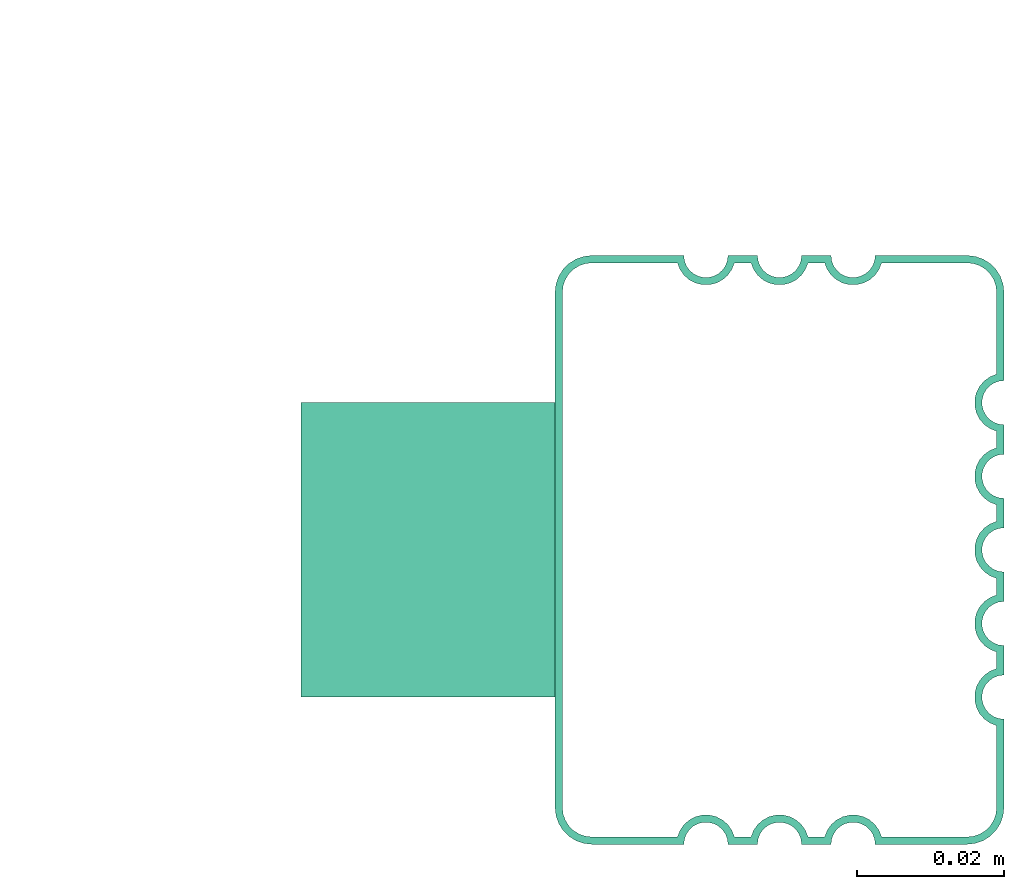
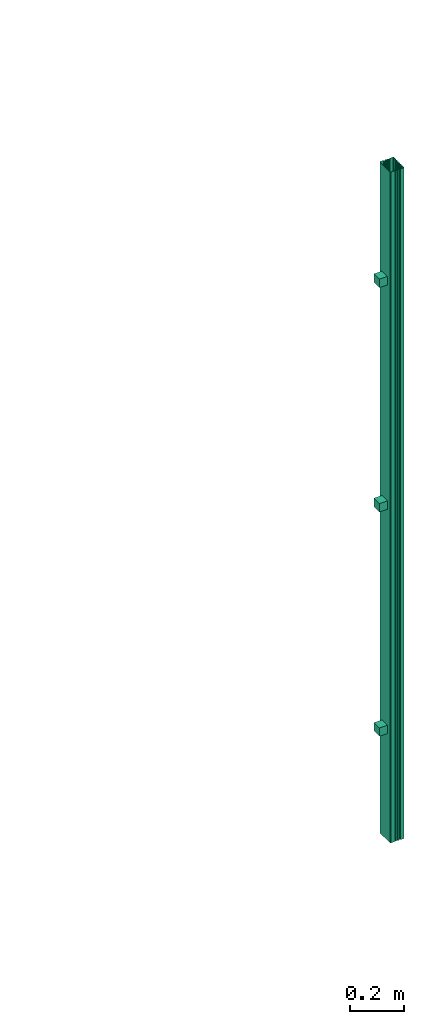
# One storey, part 5 of 5: 1 flow terminal.
"""IFC2X3 building model written with IfcOpenShell, lengths in metres."""

import ifcopenshell
import ifcopenshell.guid

model = None  # the IFC model being written
_history = None  # IfcOwnerHistory: only IFC2X3 demands one
_inside = {}  # id of a spatial element -> (the spatial element, [elements in it])
_under = {}  # id of a project, library or spatial element -> (it, [spatial elements below it])
_declared = {}  # id of a project -> (the project, [libraries it declares])
_typed = {}  # id of a type object -> (the type object, [elements of that type])
_made_of = {}  # id of a material, layer set ... -> (it, [elements and type objects made of it])


def new_model(schema):
    """Start an empty IFC model of exactly this schema.

    Asked for "IFC4X3", IfcOpenShell would pick the latest addendum, in which some entities
    have other attributes; the version numbers below select the first issue.
    IFC2X3 requires an IfcOwnerHistory on every rooted entity: one is made here for all.
    """
    global model, _history
    if schema == "IFC4X3":
        model = ifcopenshell.file(schema_version=(4, 3, 0, 0))
    else:
        model = ifcopenshell.file(schema=schema)
    _inside.clear()
    _under.clear()
    _declared.clear()
    _typed.clear()
    _made_of.clear()
    _history = None
    if model.schema == "IFC2X3":
        org = make("IfcOrganization", Name="unknown")
        user = make(
            "IfcPersonAndOrganization",
            ThePerson=make("IfcPerson", FamilyName="unknown"),
            TheOrganization=org,
        )
        app = make(
            "IfcApplication",
            ApplicationDeveloper=org,
            Version="unknown",
            ApplicationFullName="unknown",
            ApplicationIdentifier="unknown",
        )
        _history = make(
            "IfcOwnerHistory",
            OwningUser=user,
            OwningApplication=app,
            ChangeAction="ADDED",
            CreationDate=0,
        )
    return model


def make(cls, **values):
    """One entity of the class cls with the attributes given. An attribute that is None is left unset."""
    return model.create_entity(
        cls, **{name: value for name, value in values.items() if value is not None}
    )


def entity(cls, *values):
    """Any entity or typed value of the class cls, its attributes in the order of the schema. None: left unset."""
    e = model.create_entity(cls)
    for i, value in enumerate(values):
        if value is not None:
            e[i] = value
    return e


def rooted(cls, **values):
    """An entity with a GlobalId (a new one), such as an element, a storey or a relation."""
    return make(cls, GlobalId=ifcopenshell.guid.new(), OwnerHistory=_history, **values)


def si_unit(unit_type, name, prefix=None):
    """IfcSIUnit, for example si_unit("LENGTHUNIT", "METRE", prefix="MILLI")."""
    return make("IfcSIUnit", UnitType=unit_type, Prefix=prefix, Name=name)


def converted_unit(unit_type, name, factor, base, dimensions=None, offset=None):
    """IfcConversionBasedUnit, such as the inch: factor (a typed value) times the base unit."""
    return make(
        "IfcConversionBasedUnit"
        if offset is None
        else "IfcConversionBasedUnitWithOffset",
        ConversionOffset=offset,
        Dimensions=None
        if dimensions is None
        else entity("IfcDimensionalExponents", *dimensions),
        UnitType=unit_type,
        Name=name,
        ConversionFactor=make(
            "IfcMeasureWithUnit", ValueComponent=factor, UnitComponent=base
        ),
    )


def derived_unit(unit_type, elements):
    """IfcDerivedUnit: a product of units, each with its exponent."""
    return make(
        "IfcDerivedUnit",
        Elements=[
            make("IfcDerivedUnitElement", Unit=unit, Exponent=power)
            for unit, power in elements
        ],
        UnitType=unit_type,
    )


def assignment(units):
    """IfcUnitAssignment: the units of a project."""
    return None if units is None else make("IfcUnitAssignment", Units=units)


def point(xyz):
    """IfcCartesianPoint."""
    return None if xyz is None else make("IfcCartesianPoint", Coordinates=xyz)


def direction(xyz):
    """IfcDirection."""
    return None if xyz is None else make("IfcDirection", DirectionRatios=xyz)


def frame(location, z_axis=None, x_axis=None):
    """IfcAxis2Placement3D, a coordinate frame: its origin and axes. An axis left out is left unset."""
    return make(
        "IfcAxis2Placement3D",
        Location=point(location),
        Axis=direction(z_axis),
        RefDirection=direction(x_axis),
    )


def frame_2d(location, x_axis=None):
    """IfcAxis2Placement2D, a coordinate frame in the plane: its origin and x axis."""
    return make(
        "IfcAxis2Placement2D", Location=point(location), RefDirection=direction(x_axis)
    )


def origin():
    """The frame at (0, 0, 0) with its axes left unset."""
    return frame((0.0, 0.0, 0.0))


def place(relative_to, where):
    """IfcLocalPlacement: puts the frame where relative to a parent placement (None: the world)."""
    return make(
        "IfcLocalPlacement", PlacementRelTo=relative_to, RelativePlacement=where
    )


def context(
    kind, dimensions, precision=None, world=None, true_north=None, identifier=None
):
    """IfcGeometricRepresentationContext, for example the 3D "Model" context."""
    return make(
        "IfcGeometricRepresentationContext",
        ContextIdentifier=identifier,
        ContextType=kind,
        CoordinateSpaceDimension=dimensions,
        Precision=precision,
        WorldCoordinateSystem=world,
        TrueNorth=true_north,
    )


def subcontext(parent, identifier, kind, view, scale=None):
    """IfcGeometricRepresentationSubContext, for example "Body" below "Model"."""
    return make(
        "IfcGeometricRepresentationSubContext",
        ContextIdentifier=identifier,
        ContextType=kind,
        ParentContext=parent,
        TargetScale=scale,
        TargetView=view,
    )


def project(units=None, contexts=None):
    """IfcProject with its units and contexts."""
    return rooted(
        "IfcProject",
        Name="project",
        RepresentationContexts=contexts,
        UnitsInContext=assignment(units),
    )


def spatial(cls, under=None, at=None, **own):
    """A site, building, storey or space (cls), placed at a placement, below another one or the project."""
    s = rooted(cls, ObjectPlacement=at, **own)
    if under is not None:
        _under.setdefault(under.id(), (under, []))[1].append(s)
    return s


def polyline(points):
    """IfcPolyline through the points."""
    return make("IfcPolyline", Points=[point(p) for p in points])


def circle_curve(where, radius):
    """IfcCircle in the frame where."""
    return make("IfcCircle", Position=where, Radius=radius)


def parameter(value):
    """IfcParameterValue: where a trimmed curve begins or ends, as a parameter of its basis curve."""
    return model.create_entity("IfcParameterValue", value)


def trimmed(basis, trim1, trim2, sense, master):
    """IfcTrimmedCurve: the piece of a basis curve between two trims."""
    return make(
        "IfcTrimmedCurve",
        BasisCurve=basis,
        Trim1=trim1,
        Trim2=trim2,
        SenseAgreement=sense,
        MasterRepresentation=master,
    )


def segment(curve, same_sense, transition):
    """IfcCompositeCurveSegment."""
    return make(
        "IfcCompositeCurveSegment",
        Transition=transition,
        SameSense=same_sense,
        ParentCurve=curve,
    )


def composite_curve(segments, self_intersect=None):
    """IfcCompositeCurve: segments joined end to end."""
    return make("IfcCompositeCurve", Segments=segments, SelfIntersect=self_intersect)


def profile(cls, at=None, kind="AREA", **sizes):
    """A parametric profile (cls). Its sizes go by their IFC names, for example OverallWidth=200.0."""
    return make(cls, ProfileType=kind, Position=at, **sizes)


def rectangle(**sizes):
    """IfcRectangleProfileDef."""
    return profile("IfcRectangleProfileDef", **sizes)


def outline(outer, holes=None, kind="AREA"):
    """IfcArbitraryClosedProfileDef: a profile drawn as a closed curve; with holes, ...WithVoids."""
    if holes is None:
        return make("IfcArbitraryClosedProfileDef", ProfileType=kind, OuterCurve=outer)
    return make(
        "IfcArbitraryProfileDefWithVoids",
        ProfileType=kind,
        OuterCurve=outer,
        InnerCurves=holes,
    )


def extrude(swept, where, along, depth):
    """IfcExtrudedAreaSolid: the profile swept, set in the frame where, extruded along a direction by depth."""
    return make(
        "IfcExtrudedAreaSolid",
        SweptArea=swept,
        Position=where,
        ExtrudedDirection=direction(along),
        Depth=depth,
    )


def shape(context_of_items, identifier, shape_type, items):
    """IfcShapeRepresentation: the items that make up one representation, for example the "Body"."""
    return make(
        "IfcShapeRepresentation",
        ContextOfItems=context_of_items,
        RepresentationIdentifier=identifier,
        RepresentationType=shape_type,
        Items=items,
    )


def source(mapping_origin, context_of_items, identifier, shape_type, items):
    """IfcRepresentationMap: a shape defined once, which mapped items show again and again."""
    return make(
        "IfcRepresentationMap",
        MappingOrigin=mapping_origin,
        MappedRepresentation=shape(context_of_items, identifier, shape_type, items),
    )


def transform(
    local_origin,
    x_axis=None,
    y_axis=None,
    z_axis=None,
    scale=None,
    scale2=None,
    scale3=None,
    uniform=True,
):
    """IfcCartesianTransformationOperator3D, or its non-uniform kind. x_axis, y_axis, z_axis: its Axis1, 2, 3."""
    if uniform:
        return make(
            "IfcCartesianTransformationOperator3D",
            Axis1=direction(x_axis),
            Axis2=direction(y_axis),
            LocalOrigin=point(local_origin),
            Scale=scale,
            Axis3=direction(z_axis),
        )
    return make(
        "IfcCartesianTransformationOperator3DnonUniform",
        Axis1=direction(x_axis),
        Axis2=direction(y_axis),
        LocalOrigin=point(local_origin),
        Scale=scale,
        Axis3=direction(z_axis),
        Scale2=scale2,
        Scale3=scale3,
    )


def mapped(mapping_source, mapping_target):
    """IfcMappedItem: shows the shape of a source again, moved by a transform."""
    return make(
        "IfcMappedItem", MappingSource=mapping_source, MappingTarget=mapping_target
    )


def material(Name=None, Category=None):
    """IfcMaterial."""
    return make("IfcMaterial", Name=Name, Category=Category)


def made_of(thing, what):
    """Note that an element or type object is made of a material, layer set ...; save() writes the relation."""
    if what is not None:
        _made_of.setdefault(what.id(), (what, []))[1].append(thing)
    return thing


def type_object(cls, material=None, **own):
    """A type object (cls), such as IfcWallType, which elements share."""
    return made_of(rooted(cls, **own), material)


def type_shapes(of_type, sources):
    """Give a type object the sources (RepresentationMaps) that its elements show as mapped items."""
    of_type.RepresentationMaps = sources


def element(
    cls,
    number,
    at=None,
    inside=None,
    cuts=None,
    type_object=None,
    material=None,
    context=None,
    identifier="Body",
    shape_type=None,
    held_by="IfcProductDefinitionShape",
    body=None,
    shapes=None,
    **own,
):
    """One element of the class cls, such as IfcWall. Its Tag is "e" and its number.

    at: its placement. inside: the storey or other place that contains it. cuts: it is an
    opening in that element (IfcRelVoidsElement). A single representation is given by context,
    identifier, shape_type and body (its items); several are given by shapes. held_by: the class
    of the entity that holds the representations. save() writes the other relations.
    """
    e = rooted(cls, Tag="e%d" % number, ObjectPlacement=at, **own)
    if body is not None:
        shapes = [shape(context, identifier, shape_type, body)]
    if shapes is not None:
        e.Representation = make(held_by, Representations=shapes)
    if inside is not None:
        _inside.setdefault(inside.id(), (inside, []))[1].append(e)
    if cuts is not None:
        rooted(
            "IfcRelVoidsElement", RelatingBuildingElement=cuts, RelatedOpeningElement=e
        )
    if type_object is not None:
        _typed.setdefault(type_object.id(), (type_object, []))[1].append(e)
    return made_of(e, material)


def aggregate(whole, parts):
    """IfcRelAggregates: a whole, such as a stair, and the parts it consists of."""
    return rooted("IfcRelAggregates", RelatingObject=whole, RelatedObjects=parts)


def save(model, path):
    """Write the relations noted so far, then the file.

    IfcRelAggregates (storeys below a building ...), IfcRelContainedInSpatialStructure (elements
    in a storey), IfcRelDefinesByType, IfcRelAssociatesMaterial and IfcRelDeclares: one each for
    every whole, place, type object, material and project.
    """
    for whole, parts in _under.values():
        aggregate(whole, parts)
    for where, things in _inside.values():
        rooted(
            "IfcRelContainedInSpatialStructure",
            RelatedElements=things,
            RelatingStructure=where,
        )
    for kind, things in _typed.values():
        rooted("IfcRelDefinesByType", RelatedObjects=things, RelatingType=kind)
    for what, things in _made_of.values():
        rooted("IfcRelAssociatesMaterial", RelatedObjects=things, RelatingMaterial=what)
    for by, libraries in _declared.values():
        rooted("IfcRelDeclares", RelatingContext=by, RelatedDefinitions=libraries)
    model.write(path)


model = new_model("IFC2X3")

# Units and contexts
model_context = context("Model", 3, precision=1e-05, world=origin(), true_north=direction((6.123031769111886e-17, 1.0)))
body_context = subcontext(model_context, "Body", "Model", "MODEL_VIEW")
ifc_project = project(units=[si_unit("LENGTHUNIT", "METRE"), si_unit("AREAUNIT", "SQUARE_METRE"), si_unit("VOLUMEUNIT", "CUBIC_METRE"), converted_unit("PLANEANGLEUNIT", "DEGREE", entity("IfcRatioMeasure", 0.017453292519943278), si_unit("PLANEANGLEUNIT", "RADIAN"), dimensions=[0, 0, 0, 0, 0, 0, 0]), si_unit("MASSUNIT", "GRAM", prefix="KILO"), derived_unit("MASSDENSITYUNIT", [(si_unit("MASSUNIT", "GRAM", prefix="KILO"), 1), (si_unit("LENGTHUNIT", "METRE"), -3)]), derived_unit("IONCONCENTRATIONUNIT", [(si_unit("MASSUNIT", "GRAM", prefix="KILO"), 1), (si_unit("LENGTHUNIT", "METRE"), -3)]), derived_unit("MOMENTOFINERTIAUNIT", [(si_unit("LENGTHUNIT", "METRE"), 4)]), si_unit("TIMEUNIT", "SECOND"), si_unit("FREQUENCYUNIT", "HERTZ"), si_unit("THERMODYNAMICTEMPERATUREUNIT", "DEGREE_CELSIUS"), derived_unit("THERMALTRANSMITTANCEUNIT", [(si_unit("MASSUNIT", "GRAM", prefix="KILO"), 1), (si_unit("THERMODYNAMICTEMPERATUREUNIT", "KELVIN"), -1), (si_unit("TIMEUNIT", "SECOND"), -3)]), derived_unit("THERMALCONDUCTANCEUNIT", [(si_unit("MASSUNIT", "GRAM", prefix="KILO"), 1), (si_unit("THERMODYNAMICTEMPERATUREUNIT", "KELVIN"), -1), (si_unit("TIMEUNIT", "SECOND"), -3), (si_unit("LENGTHUNIT", "METRE"), 1)]), derived_unit("VOLUMETRICFLOWRATEUNIT", [(si_unit("LENGTHUNIT", "METRE"), 3), (si_unit("TIMEUNIT", "SECOND"), -1)]), derived_unit("MASSFLOWRATEUNIT", [(si_unit("MASSUNIT", "GRAM", prefix="KILO"), 1), (si_unit("TIMEUNIT", "SECOND"), -1)]), derived_unit("ROTATIONALFREQUENCYUNIT", [(si_unit("TIMEUNIT", "SECOND"), -1)]), si_unit("ELECTRICCURRENTUNIT", "AMPERE"), si_unit("ELECTRICVOLTAGEUNIT", "VOLT"), si_unit("POWERUNIT", "WATT"), si_unit("FORCEUNIT", "NEWTON", prefix="KILO"), si_unit("ILLUMINANCEUNIT", "LUX"), si_unit("LUMINOUSFLUXUNIT", "LUMEN"), si_unit("LUMINOUSINTENSITYUNIT", "CANDELA"), derived_unit("USERDEFINED", [(si_unit("MASSUNIT", "GRAM", prefix="KILO"), -1), (si_unit("LENGTHUNIT", "METRE"), -2), (si_unit("TIMEUNIT", "SECOND"), 3), (si_unit("LUMINOUSFLUXUNIT", "LUMEN"), 1)]), derived_unit("USERDEFINED", [(si_unit("MASSUNIT", "GRAM", prefix="KILO"), 1), (si_unit("TIMEUNIT", "SECOND"), -3), (si_unit("LENGTHUNIT", "METRE"), 3), (si_unit("ELECTRICCURRENTUNIT", "AMPERE"), -2)]), derived_unit("SOUNDPOWERUNIT", [(si_unit("MASSUNIT", "GRAM", prefix="KILO"), 1), (si_unit("TIMEUNIT", "SECOND"), -3), (si_unit("LENGTHUNIT", "METRE"), 2)]), derived_unit("SOUNDPRESSUREUNIT", [(si_unit("MASSUNIT", "GRAM", prefix="KILO"), 1), (si_unit("LENGTHUNIT", "METRE"), -1), (si_unit("TIMEUNIT", "SECOND"), -2)]), derived_unit("LINEARVELOCITYUNIT", [(si_unit("LENGTHUNIT", "METRE"), 1), (si_unit("TIMEUNIT", "SECOND"), -1)]), si_unit("PRESSUREUNIT", "PASCAL"), derived_unit("USERDEFINED", [(si_unit("MASSUNIT", "GRAM", prefix="KILO"), 1), (si_unit("LENGTHUNIT", "METRE"), -2), (si_unit("TIMEUNIT", "SECOND"), -2)]), derived_unit("LINEARFORCEUNIT", [(si_unit("MASSUNIT", "GRAM", prefix="KILO"), 1), (si_unit("TIMEUNIT", "SECOND"), -2)]), derived_unit("PLANARFORCEUNIT", [(si_unit("MASSUNIT", "GRAM", prefix="KILO"), 1), (si_unit("LENGTHUNIT", "METRE"), -1), (si_unit("TIMEUNIT", "SECOND"), -2)]), derived_unit("SPECIFICHEATCAPACITYUNIT", [(si_unit("THERMODYNAMICTEMPERATUREUNIT", "KELVIN"), -1), (si_unit("LENGTHUNIT", "METRE"), 2), (si_unit("TIMEUNIT", "SECOND"), -2)]), derived_unit("HEATINGVALUEUNIT", [(si_unit("LENGTHUNIT", "METRE"), 2), (si_unit("TIMEUNIT", "SECOND"), -2)]), derived_unit("VAPORPERMEABILITYUNIT", [(si_unit("LENGTHUNIT", "METRE"), -1), (si_unit("TIMEUNIT", "SECOND"), 1)]), derived_unit("DYNAMICVISCOSITYUNIT", [(si_unit("MASSUNIT", "GRAM", prefix="KILO"), 1), (si_unit("TIMEUNIT", "SECOND"), -1), (si_unit("LENGTHUNIT", "METRE"), -1)]), derived_unit("THERMALEXPANSIONCOEFFICIENTUNIT", [(si_unit("THERMODYNAMICTEMPERATUREUNIT", "KELVIN"), -1)]), derived_unit("MODULUSOFELASTICITYUNIT", [(si_unit("MASSUNIT", "GRAM", prefix="KILO"), 1), (si_unit("LENGTHUNIT", "METRE"), -1), (si_unit("TIMEUNIT", "SECOND"), -2)]), derived_unit("ISOTHERMALMOISTURECAPACITYUNIT", [(si_unit("LENGTHUNIT", "METRE"), 3), (si_unit("MASSUNIT", "GRAM", prefix="KILO"), -1)]), derived_unit("MOISTUREDIFFUSIVITYUNIT", [(si_unit("TIMEUNIT", "SECOND"), -1), (si_unit("LENGTHUNIT", "METRE"), 2)])], contexts=[model_context])

# Site, building, storey
site_placement = place(None, frame((1.2553507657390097, -0.6266432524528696, -1.0397761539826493), z_axis=(0.0, 0.0, 1.0), x_axis=(-1.0, 0.0, 0.0)))
site = spatial("IfcSite", under=ifc_project, at=site_placement, Name="Default", CompositionType="ELEMENT")
building_placement = place(site_placement, origin())
building = spatial("IfcBuilding", under=site, at=building_placement, Name="MAISON D'HABITATION", CompositionType="ELEMENT")
storey_placement = place(building_placement, frame((0.0, 0.0, 0.9097761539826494)))
storey = spatial("IfcBuildingStorey", under=building, at=storey_placement, Name="Niveau Dalle ↑", CompositionType="ELEMENT", Elevation=0.9097761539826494)

# Flow terminal
ifc_material = material(Name="<Unnamed>")
distribution_element_type = type_object("IfcDistributionElementType", Name="Descente Gouttière rectangle:Descente Gouttière rectangle", material=ifc_material)
shared_shape = source(origin(), body_context, "Body", "SweptSolid", [
    extrude(rectangle(XDim=0.04, YDim=0.0349999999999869, at=frame_2d((0.0, 1.3530843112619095e-16), x_axis=(1.0, 0.0))), frame((0.006697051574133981, 0.8126588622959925, 1.4918658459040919), z_axis=(0.0, 0.0, 1.0), x_axis=(-1.0, 0.0, 0.0)), (0.0, 0.0, 1.0), 0.037768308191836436),
    extrude(rectangle(XDim=0.04, YDim=0.0349999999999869, at=frame_2d((0.0, 1.3530843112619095e-16), x_axis=(1.0, 0.0))), frame((0.006697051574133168, 0.8126588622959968, 2.5026158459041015), z_axis=(0.0, 0.0, 1.0), x_axis=(-1.0, 0.0, 0.0)), (0.0, 0.0, 1.0), 0.037768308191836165),
    extrude(rectangle(XDim=0.04, YDim=0.0349999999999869, at=frame_2d((0.0, 1.3530843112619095e-16), x_axis=(1.0, 0.0))), frame((0.006697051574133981, 0.8126588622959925, 0.48111584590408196), z_axis=(0.0, 0.0, 1.0), x_axis=(-1.0, 0.0, 0.0)), (0.0, 0.0, 1.0), 0.037768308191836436),
    extrude(outline(composite_curve([segment(polyline([(0.02299999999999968, -0.02033333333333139), (0.03499999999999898, -0.020333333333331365)]), True, "CONTINUOUS"), segment(trimmed(circle_curve(frame_2d((0.03499999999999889, -0.015333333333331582), x_axis=(-1.0, 0.0)), 0.00499999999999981), [parameter(90.00000000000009)], [parameter(180.00000000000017)], True, "PARAMETER"), True, "CONTINUOUS"), segment(polyline([(0.03999999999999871, -0.015333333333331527), (0.03999999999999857, -0.002833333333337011)]), True, "CONTINUOUS"), segment(trimmed(circle_curve(frame_2d((0.03999999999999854, 0.00016666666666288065), x_axis=(-1.0, 0.0)), 0.0029999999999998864), [parameter(270.00000000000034)], [parameter(90.0000000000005)], True, "PARAMETER"), False, "CONTINUOUS"), segment(polyline([(0.039999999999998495, 0.003166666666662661), (0.03999999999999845, 0.007166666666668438)]), True, "CONTINUOUS"), segment(trimmed(circle_curve(frame_2d((0.03999999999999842, 0.01016666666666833), x_axis=(-1.0, 0.0)), 0.0029999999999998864), [parameter(270.00000000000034)], [parameter(90.0000000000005)], True, "PARAMETER"), False, "CONTINUOUS"), segment(polyline([(0.03999999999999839, 0.01316666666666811), (0.03999999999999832, 0.01716666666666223)]), True, "CONTINUOUS"), segment(trimmed(circle_curve(frame_2d((0.03999999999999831, 0.02016666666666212), x_axis=(-1.0, 0.0)), 0.0029999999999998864), [parameter(269.9999999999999)], [parameter(90.00000000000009)], True, "PARAMETER"), False, "CONTINUOUS"), segment(polyline([(0.039999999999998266, 0.0231666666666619), (0.03999999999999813, 0.035666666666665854)]), True, "CONTINUOUS"), segment(trimmed(circle_curve(frame_2d((0.03499999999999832, 0.0356666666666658), x_axis=(-1.0, 0.0)), 0.00499999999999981), [parameter(180.00000000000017)], [parameter(270.0)], True, "PARAMETER"), True, "CONTINUOUS"), segment(polyline([(0.034999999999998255, 0.04066666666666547), (-0.03499999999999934, 0.04066666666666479)]), True, "CONTINUOUS"), segment(trimmed(circle_curve(frame_2d((-0.034999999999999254, 0.03566666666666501), x_axis=(-1.0, 0.0)), 0.00499999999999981), [parameter(269.9999999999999)], [parameter(0.0)], True, "PARAMETER"), True, "CONTINUOUS"), segment(polyline([(-0.03999999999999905, 0.03566666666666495), (-0.0399999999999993, 0.023166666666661)]), True, "CONTINUOUS"), segment(trimmed(circle_curve(frame_2d((-0.0399999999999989, 0.02016666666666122), x_axis=(-1.0, 0.0)), 0.0029999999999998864), [parameter(90.00000000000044)], [parameter(270.00000000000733)], True, "PARAMETER"), False, "CONTINUOUS"), segment(polyline([(-0.03999999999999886, 0.017166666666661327), (-0.03999999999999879, 0.013166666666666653)]), True, "CONTINUOUS"), segment(trimmed(circle_curve(frame_2d((-0.039999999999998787, 0.010166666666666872), x_axis=(-1.0, 0.0)), 0.0029999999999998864), [parameter(90.00000000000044)], [parameter(269.9999999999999)], True, "PARAMETER"), False, "CONTINUOUS"), segment(polyline([(-0.03999999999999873, 0.007166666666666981), (-0.03999999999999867, 0.003166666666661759)]), True, "CONTINUOUS"), segment(trimmed(circle_curve(frame_2d((-0.03999999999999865, 0.00016666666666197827), x_axis=(-1.0, 0.0)), 0.0029999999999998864), [parameter(89.99999999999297)], [parameter(269.9999999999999)], True, "PARAMETER"), False, "CONTINUOUS"), segment(polyline([(-0.039999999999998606, -0.002833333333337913), (-0.03999999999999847, -0.015333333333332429)]), True, "CONTINUOUS"), segment(trimmed(circle_curve(frame_2d((-0.03499999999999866, -0.015333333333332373), x_axis=(-1.0, 0.0)), 0.00499999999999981), [parameter(0.0)], [parameter(90.00000000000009)], True, "PARAMETER"), True, "CONTINUOUS"), segment(polyline([(-0.0349999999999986, -0.020333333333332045), (-0.022999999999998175, -0.02033333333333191)]), True, "CONTINUOUS"), segment(trimmed(circle_curve(frame_2d((-0.01999999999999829, -0.020333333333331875), x_axis=(-1.0, 0.0)), 0.0029999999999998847), [parameter(179.99999999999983)], [parameter(0.0)], True, "PARAMETER"), False, "CONTINUOUS"), segment(polyline([(-0.016999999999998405, -0.02033333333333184), (-0.012999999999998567, -0.020333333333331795)]), True, "CONTINUOUS"), segment(trimmed(circle_curve(frame_2d((-0.009999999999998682, -0.020333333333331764), x_axis=(-1.0, 0.0)), 0.0029999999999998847), [parameter(179.99999999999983)], [parameter(0.0)], True, "PARAMETER"), False, "CONTINUOUS"), segment(polyline([(-0.006999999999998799, -0.02033333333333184), (-0.0030000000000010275, -0.020333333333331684)]), True, "CONTINUOUS"), segment(trimmed(circle_curve(frame_2d((0.0, -0.02033333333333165), x_axis=(-1.0, 0.0)), 0.0029999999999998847), [parameter(179.99999999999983)], [parameter(0.0)], True, "PARAMETER"), False, "CONTINUOUS"), segment(polyline([(0.002999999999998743, -0.020333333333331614), (0.007000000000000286, -0.02033333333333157)]), True, "CONTINUOUS"), segment(trimmed(circle_curve(frame_2d((0.010000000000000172, -0.020333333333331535), x_axis=(-1.0, 0.0)), 0.0029999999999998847), [parameter(179.99999999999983)], [parameter(0.0)], True, "PARAMETER"), False, "CONTINUOUS"), segment(polyline([(0.013000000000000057, -0.020333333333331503), (0.016999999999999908, -0.020333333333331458)]), True, "CONTINUOUS"), segment(trimmed(circle_curve(frame_2d((0.019999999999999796, -0.020333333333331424), x_axis=(-1.0, 0.0)), 0.0029999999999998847), [parameter(179.99999999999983)], [parameter(0.0)], True, "PARAMETER"), False, "CONTINUOUS")], self_intersect=False), holes=[composite_curve([segment(trimmed(circle_curve(frame_2d((0.019999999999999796, -0.020333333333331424), x_axis=(-1.0, 0.0)), 0.0039999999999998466), [parameter(194.47751218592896)], [parameter(345.52248781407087)], True, "PARAMETER"), True, "CONTINUOUS"), segment(polyline([(0.0161270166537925, -0.019333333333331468), (0.013872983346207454, -0.01933333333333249)]), True, "CONTINUOUS"), segment(trimmed(circle_curve(frame_2d((0.010000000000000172, -0.020333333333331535), x_axis=(-1.0, 0.0)), 0.0039999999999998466), [parameter(194.47751218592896)], [parameter(345.52248781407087)], True, "PARAMETER"), True, "CONTINUOUS"), segment(polyline([(0.006127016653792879, -0.01933333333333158), (0.0038729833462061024, -0.019333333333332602)]), True, "CONTINUOUS"), segment(trimmed(circle_curve(frame_2d((0.0, -0.02033333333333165), x_axis=(-1.0, 0.0)), 0.0039999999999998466), [parameter(194.47751218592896)], [parameter(345.52248781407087)], True, "PARAMETER"), True, "CONTINUOUS"), segment(polyline([(-0.003872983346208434, -0.019333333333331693), (-0.006127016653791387, -0.019333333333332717)]), True, "CONTINUOUS"), segment(trimmed(circle_curve(frame_2d((-0.009999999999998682, -0.020333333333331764), x_axis=(-1.0, 0.0)), 0.0039999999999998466), [parameter(194.47751218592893)], [parameter(345.5224878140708)], True, "PARAMETER"), True, "CONTINUOUS"), segment(polyline([(-0.013872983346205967, -0.019333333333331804), (-0.01612701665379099, -0.019333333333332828)]), True, "CONTINUOUS"), segment(trimmed(circle_curve(frame_2d((-0.01999999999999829, -0.020333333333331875), x_axis=(-1.0, 0.0)), 0.0039999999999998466), [parameter(194.47751218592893)], [parameter(345.5224878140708)], True, "PARAMETER"), True, "CONTINUOUS"), segment(polyline([(-0.023872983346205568, -0.01933333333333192), (-0.034999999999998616, -0.019333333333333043)]), True, "CONTINUOUS"), segment(trimmed(circle_curve(frame_2d((-0.03499999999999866, -0.015333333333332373), x_axis=(-1.0, 0.0)), 0.003999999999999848), [parameter(0.0)], [parameter(90.00000000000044)], True, "PARAMETER"), False, "CONTINUOUS"), segment(polyline([(-0.03899999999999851, -0.015333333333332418), (-0.03899999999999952, -0.0037063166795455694)]), True, "CONTINUOUS"), segment(trimmed(circle_curve(frame_2d((-0.03999999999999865, 0.00016666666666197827), x_axis=(-1.0, 0.0)), 0.003999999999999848), [parameter(104.47751218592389)], [parameter(255.52248781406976)], True, "PARAMETER"), True, "CONTINUOUS"), segment(polyline([(-0.038999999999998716, 0.004039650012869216), (-0.03899999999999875, 0.0062936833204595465)]), True, "CONTINUOUS"), segment(trimmed(circle_curve(frame_2d((-0.039999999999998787, 0.010166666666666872), x_axis=(-1.0, 0.0)), 0.003999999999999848), [parameter(104.47751218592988)], [parameter(255.52248781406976)], True, "PARAMETER"), True, "CONTINUOUS"), segment(polyline([(-0.03899999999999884, 0.014039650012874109), (-0.03899999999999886, 0.01629368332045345)]), True, "CONTINUOUS"), segment(trimmed(circle_curve(frame_2d((-0.0399999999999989, 0.02016666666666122), x_axis=(-1.0, 0.0)), 0.003999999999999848), [parameter(104.47751218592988)], [parameter(255.52248781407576)], True, "PARAMETER"), True, "CONTINUOUS"), segment(polyline([(-0.038999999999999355, 0.024039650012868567), (-0.03899999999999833, 0.035666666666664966)]), True, "CONTINUOUS"), segment(trimmed(circle_curve(frame_2d((-0.034999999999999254, 0.03566666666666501), x_axis=(-1.0, 0.0)), 0.003999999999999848), [parameter(270.0000000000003)], [parameter(0.0)], True, "PARAMETER"), False, "CONTINUOUS"), segment(polyline([(-0.034999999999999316, 0.0396666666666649), (0.034999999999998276, 0.039666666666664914)]), True, "CONTINUOUS"), segment(trimmed(circle_curve(frame_2d((0.03499999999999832, 0.0356666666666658), x_axis=(-1.0, 0.0)), 0.003999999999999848), [parameter(179.99999999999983)], [parameter(270.0)], True, "PARAMETER"), False, "CONTINUOUS"), segment(polyline([(0.03899999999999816, 0.03566666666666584), (0.03899999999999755, 0.024039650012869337)]), True, "CONTINUOUS"), segment(trimmed(circle_curve(frame_2d((0.03999999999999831, 0.02016666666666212), x_axis=(-1.0, 0.0)), 0.003999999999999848), [parameter(284.47751218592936)], [parameter(75.52248781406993)], True, "PARAMETER"), True, "CONTINUOUS"), segment(polyline([(0.03899999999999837, 0.016293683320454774), (0.03899999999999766, 0.014039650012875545)]), True, "CONTINUOUS"), segment(trimmed(circle_curve(frame_2d((0.03999999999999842, 0.01016666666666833), x_axis=(-1.0, 0.0)), 0.003999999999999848), [parameter(284.4775121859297)], [parameter(75.52248781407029)], True, "PARAMETER"), True, "CONTINUOUS"), segment(polyline([(0.03899999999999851, 0.006293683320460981), (0.03899999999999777, 0.004039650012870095)]), True, "CONTINUOUS"), segment(trimmed(circle_curve(frame_2d((0.03999999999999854, 0.00016666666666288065), x_axis=(-1.0, 0.0)), 0.003999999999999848), [parameter(284.4775121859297)], [parameter(75.52248781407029)], True, "PARAMETER"), True, "CONTINUOUS"), segment(polyline([(0.03899999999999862, -0.003706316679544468), (0.038999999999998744, -0.015333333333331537)]), True, "CONTINUOUS"), segment(trimmed(circle_curve(frame_2d((0.03499999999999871, -0.015333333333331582), x_axis=(-1.0, 0.0)), 0.003999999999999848), [parameter(90.00000000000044)], [parameter(179.99999999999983)], True, "PARAMETER"), False, "CONTINUOUS"), segment(polyline([(0.034999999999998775, -0.019333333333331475), (0.02387298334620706, -0.0193333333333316)]), True, "CONTINUOUS")], self_intersect=False)]), frame((0.006697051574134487, 0.870325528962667, 0.0), z_axis=(0.0, 0.0, 1.0), x_axis=(-1.0, 0.0, 0.0)), (0.0, 0.0, 1.0), 3.0214999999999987),
])
type_shapes(distribution_element_type, [shared_shape])
flow_terminal_placement = place(storey_placement, frame((-4.104708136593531, 3.1294859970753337, -0.2), z_axis=(0.0, 0.0, 1.0), x_axis=(0.0, 1.0, 0.0)))
element("IfcFlowTerminal", 1, at=flow_terminal_placement, inside=storey, type_object=distribution_element_type, material=ifc_material, Name="Descente Gouttière rectangle:Descente Gouttière rectangle", ObjectType="Descente Gouttière rectangle:Descente Gouttière rectangle", context=body_context, shape_type="MappedRepresentation", body=[
    mapped(shared_shape, transform((0.0, 0.0, 0.0), scale=1.0)),
])

save(model, "model.ifc")
